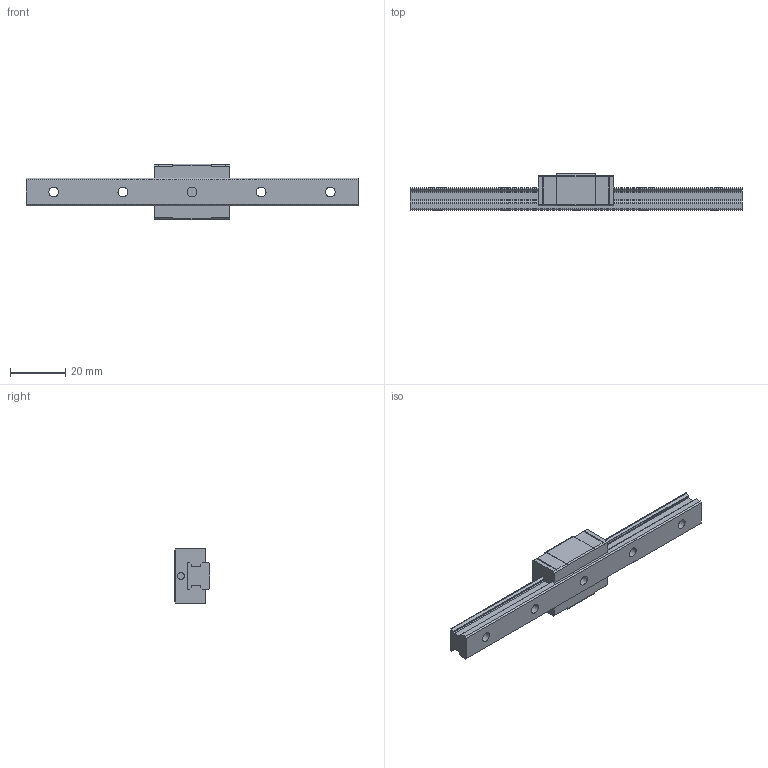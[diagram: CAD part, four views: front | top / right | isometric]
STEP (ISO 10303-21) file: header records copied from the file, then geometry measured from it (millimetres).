
FILE_DESCRIPTION(/* description */ ('STEP AP203'),/* implementation_level */ '2;1');
FILE_NAME(/* name */ 'HRG10SRM1UU-120LHM_G10_0_Without_grease_nipple_46-35_0_0_01',/* time_stamp */ '2024-05-23T11:22:36+02:00',/* author */ ('License CC BY-ND 4.0'),/* organization */ ('CADENAS'),/* preprocessor_version */ 'ST-DEVELOPER v19.3',/* originating_system */ 'PARTsolutions',/* authorisation */ ' ');
FILE_SCHEMA (('CONFIG_CONTROL_DESIGN'));
Length unit declared in the file: millimetre
Products named in the file (4): HRG10SRM1UU-120LHM_G10_0_Without_grease_nipple_46-35_0_0_01; HRG10SRM112010 Rail; HRG10SRMUU 1Slider; HSR-YR-_grease_nipple_joint
Assembly tree (3 placements, depth 2):
  HRG10SRM1UU-120LHM_G10_0_Without_grease_nipple_46-35_0_0_01
    HRG10SRM112010 Rail
    HRG10SRMUU 1Slider
    HSR-YR-_grease_nipple_joint
Bounding box: 120 x 13 x 20 mm (x, y, z)
Volume: 12108.3 mm3; surface area: 7757.7 mm2
Topology: 2 solids, 2 shells, 137 faces, 376 edges, 251 vertices
Faces by surface type: plane 86, cylinder 47, cone 4
Full cylindrical faces by diameter (mm): 1.567 x2, 2.5 x2, 3.5 x5, 6 x5
Entity records: 4350 total; most frequent: CARTESIAN_POINT 744, DIRECTION 732, ORIENTED_EDGE 708, EDGE_CURVE 354, LINE 258, VECTOR 258, VERTEX_POINT 248, AXIS2_PLACEMENT_3D 237
